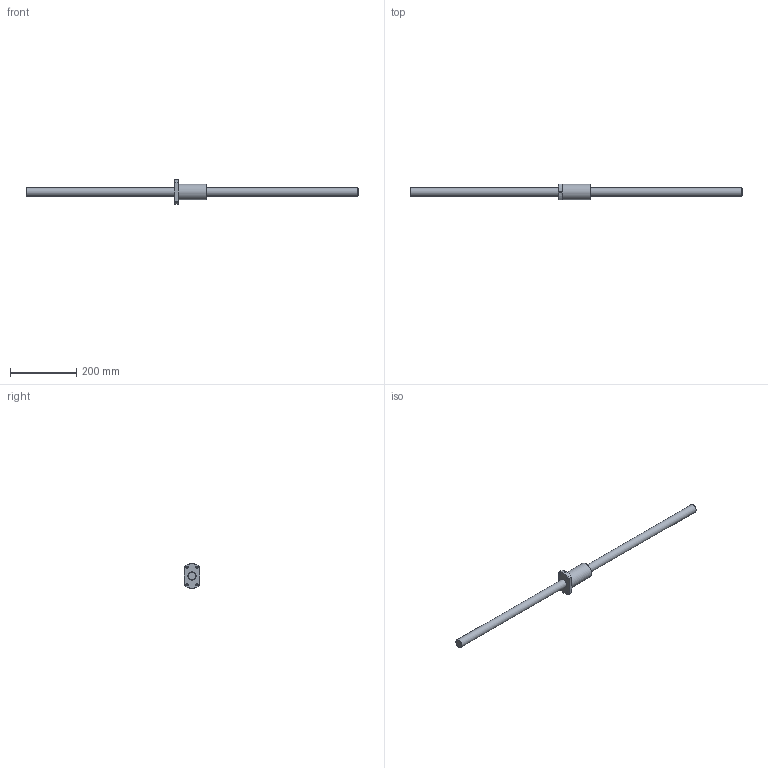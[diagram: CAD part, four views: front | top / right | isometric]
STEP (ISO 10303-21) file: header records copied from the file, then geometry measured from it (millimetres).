
FILE_DESCRIPTION((''),'2;1');
FILE_NAME('D:\製品 (図面)\カタログ用3D\ネジ関連\STEP形式\RBSDA\RBSDA2525-1000.stp','2010-06-02T14:40:31',('Tsuchiya'),(''),'Autodesk Inventor 10','Autodesk Inventor 10','');
FILE_SCHEMA(('AUTOMOTIVE_DESIGN { 1 0 10303 214 1 1 1 1 }'));
Length unit declared in the file: millimetre
Products named in the file (3): RBSDA2525-1000; RBSDA2525-10001; RBSDA2525-10002
Assembly tree (2 placements, depth 2):
  RBSDA2525-1000
    RBSDA2525-10001
    RBSDA2525-10002
Bounding box: 1000 x 47 x 74 mm (x, y, z)
Volume: 625986.5 mm3; surface area: 108395.7 mm2
Topology: 2 solids, 2 shells, 25 faces, 63 edges, 42 vertices
Faces by surface type: cylinder 9, plane 8, cone 7, bspline 1
Full cylindrical faces by diameter (mm): 6.6 x4, 25 x2, 47 x1
Entity records: 885 total; most frequent: CARTESIAN_POINT 270, DIRECTION 120, ORIENTED_EDGE 94, AXIS2_PLACEMENT_3D 55, EDGE_LOOP 48, EDGE_CURVE 47, VERTEX_POINT 37, CIRCLE 26
